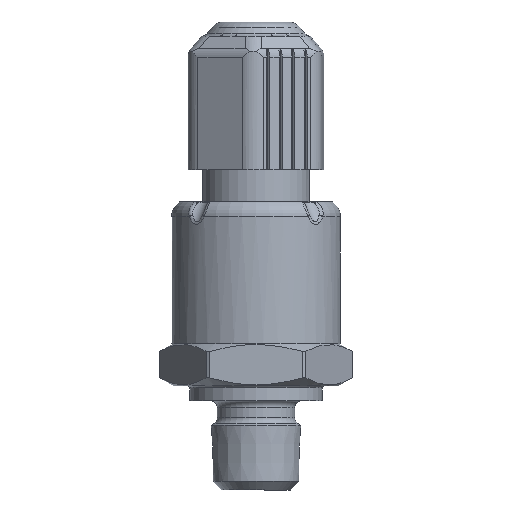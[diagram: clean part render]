
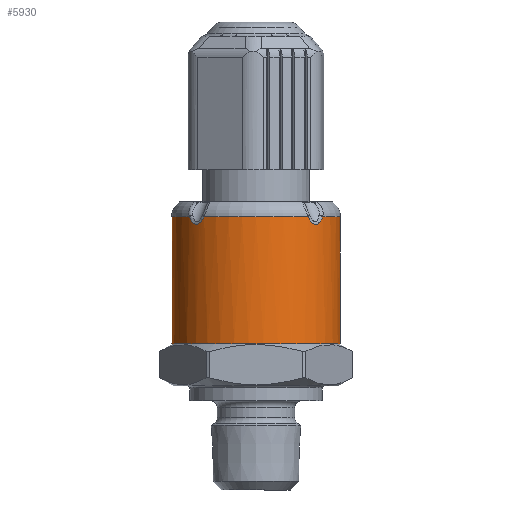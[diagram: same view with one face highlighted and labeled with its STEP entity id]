
A CAD part, front view. The second image highlights one B-rep face of the part: STEP entity #5930.
In plain terms, the highlighted cylindrical face has radius 12 mm (diameter 24 mm), a full revolution.
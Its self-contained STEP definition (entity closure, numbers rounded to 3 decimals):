
#173=B_SPLINE_CURVE_WITH_KNOTS('',3,(#11430,#11431,#11432,#11433,#11434,
#11435,#11436,#11437,#11438,#11439),.UNSPECIFIED.,.F.,.F.,(4,1,1,1,1,1,
1,4),(0.,0.053,0.106,0.159,0.213,
0.266,0.319,0.372),.UNSPECIFIED.);
#178=B_SPLINE_CURVE_WITH_KNOTS('',3,(#11541,#11542,#11543,#11544,#11545,
#11546,#11547,#11548,#11549,#11550,#11551,#11552,#11553,#11554,#11555,#11556,
#11557,#11558,#11559,#11560,#11561,#11562,#11563,#11564,#11565,#11566,#11567,
#11568),.UNSPECIFIED.,.F.,.F.,(4,3,3,3,3,3,3,3,3,4),(0.,0.029,
0.053,0.08,0.106,0.133,
0.157,0.159,0.177,0.186),
 .UNSPECIFIED.);
#179=B_SPLINE_CURVE_WITH_KNOTS('',3,(#11571,#11572,#11573,#11574,#11575,
#11576,#11577,#11578,#11579,#11580),.UNSPECIFIED.,.F.,.F.,(4,1,1,1,1,1,
1,4),(0.,0.053,0.106,0.159,0.213,
0.266,0.319,0.372),.UNSPECIFIED.);
#180=B_SPLINE_CURVE_WITH_KNOTS('',3,(#11581,#11582,#11583,#11584,#11585,
#11586,#11587,#11588,#11589,#11590),.UNSPECIFIED.,.F.,.F.,(4,1,1,1,1,1,
1,4),(0.,0.053,0.106,0.159,
0.213,0.266,0.319,0.372),
 .UNSPECIFIED.);
#181=B_SPLINE_CURVE_WITH_KNOTS('',3,(#11591,#11592,#11593,#11594,#11595,
#11596,#11597),.UNSPECIFIED.,.F.,.F.,(4,1,1,1,4),(0.186,0.213,
0.266,0.292,0.372),.UNSPECIFIED.);
#368=CYLINDRICAL_SURFACE('',#6553,12.);
#702=FACE_OUTER_BOUND('',#1045,.T.);
#1045=EDGE_LOOP('',(#5387,#5388,#5389,#5390,#5391,#5392,#5393,#5394,#5395,
#5396,#5397,#5398));
#1263=CIRCLE('',#6540,12.);
#1268=CIRCLE('',#6547,12.);
#1273=CIRCLE('',#6554,12.);
#1274=CIRCLE('',#6555,12.);
#1275=CIRCLE('',#6556,12.);
#1751=LINE('',#11599,#2223);
#2223=VECTOR('',#8217,12.);
#2774=VERTEX_POINT('',#10838);
#2777=VERTEX_POINT('',#11007);
#2778=VERTEX_POINT('',#11016);
#2783=VERTEX_POINT('',#11241);
#2784=VERTEX_POINT('',#11250);
#2785=VERTEX_POINT('',#11283);
#2788=VERTEX_POINT('',#11360);
#2791=VERTEX_POINT('',#11539);
#2792=VERTEX_POINT('',#11540);
#2793=VERTEX_POINT('',#11598);
#3639=EDGE_CURVE('',#2777,#2778,#1263,.T.);
#3651=EDGE_CURVE('',#2783,#2784,#1268,.T.);
#3658=EDGE_CURVE('',#2785,#2788,#173,.T.);
#3664=EDGE_CURVE('',#2791,#2792,#178,.T.);
#3665=EDGE_CURVE('',#2791,#2788,#1273,.T.);
#3666=EDGE_CURVE('',#2785,#2774,#1274,.T.);
#3667=EDGE_CURVE('',#2777,#2774,#179,.T.);
#3668=EDGE_CURVE('',#2783,#2778,#180,.T.);
#3669=EDGE_CURVE('',#2792,#2784,#181,.T.);
#3670=EDGE_CURVE('',#2792,#2793,#1751,.T.);
#3671=EDGE_CURVE('',#2793,#2793,#1275,.T.);
#5387=ORIENTED_EDGE('',*,*,#3664,.F.);
#5388=ORIENTED_EDGE('',*,*,#3665,.T.);
#5389=ORIENTED_EDGE('',*,*,#3658,.F.);
#5390=ORIENTED_EDGE('',*,*,#3666,.T.);
#5391=ORIENTED_EDGE('',*,*,#3667,.F.);
#5392=ORIENTED_EDGE('',*,*,#3639,.T.);
#5393=ORIENTED_EDGE('',*,*,#3668,.F.);
#5394=ORIENTED_EDGE('',*,*,#3651,.T.);
#5395=ORIENTED_EDGE('',*,*,#3669,.F.);
#5396=ORIENTED_EDGE('',*,*,#3670,.T.);
#5397=ORIENTED_EDGE('',*,*,#3671,.T.);
#5398=ORIENTED_EDGE('',*,*,#3670,.F.);
#5930=ADVANCED_FACE('',(#702),#368,.T.);
#6540=AXIS2_PLACEMENT_3D('',#11023,#8185,#8186);
#6547=AXIS2_PLACEMENT_3D('',#11257,#8199,#8200);
#6553=AXIS2_PLACEMENT_3D('',#11538,#8211,#8212);
#6554=AXIS2_PLACEMENT_3D('',#11569,#8213,#8214);
#6555=AXIS2_PLACEMENT_3D('',#11570,#8215,#8216);
#6556=AXIS2_PLACEMENT_3D('',#11600,#8218,#8219);
#8185=DIRECTION('center_axis',(0.,0.,-1.));
#8186=DIRECTION('ref_axis',(0.707,-0.707,0.));
#8199=DIRECTION('center_axis',(0.,0.,-1.));
#8200=DIRECTION('ref_axis',(0.707,-0.707,0.));
#8211=DIRECTION('center_axis',(0.,0.,1.));
#8212=DIRECTION('ref_axis',(0.707,-0.707,0.));
#8213=DIRECTION('center_axis',(0.,0.,-1.));
#8214=DIRECTION('ref_axis',(0.707,-0.707,0.));
#8215=DIRECTION('center_axis',(0.,0.,-1.));
#8216=DIRECTION('ref_axis',(0.707,-0.707,0.));
#8217=DIRECTION('',(0.,0.,-1.));
#8218=DIRECTION('center_axis',(0.,0.,1.));
#8219=DIRECTION('ref_axis',(0.707,-0.707,0.));
#10838=CARTESIAN_POINT('',(9.481,-7.356,17.005));
#11007=CARTESIAN_POINT('',(7.356,-9.481,17.005));
#11016=CARTESIAN_POINT('',(-7.356,-9.481,17.005));
#11023=CARTESIAN_POINT('Origin',(0.,0.,17.005));
#11241=CARTESIAN_POINT('',(-9.481,-7.356,17.005));
#11250=CARTESIAN_POINT('',(-9.481,7.356,17.005));
#11257=CARTESIAN_POINT('Origin',(0.,0.,17.005));
#11283=CARTESIAN_POINT('',(9.481,7.356,17.005));
#11360=CARTESIAN_POINT('',(7.356,9.481,17.005));
#11430=CARTESIAN_POINT('Ctrl Pts',(9.481,7.356,17.005));
#11431=CARTESIAN_POINT('Ctrl Pts',(9.421,7.433,16.853));
#11432=CARTESIAN_POINT('Ctrl Pts',(9.289,7.6,16.56));
#11433=CARTESIAN_POINT('Ctrl Pts',(9.032,7.905,16.18));
#11434=CARTESIAN_POINT('Ctrl Pts',(8.693,8.278,15.919));
#11435=CARTESIAN_POINT('Ctrl Pts',(8.279,8.692,15.92));
#11436=CARTESIAN_POINT('Ctrl Pts',(7.905,9.032,16.181));
#11437=CARTESIAN_POINT('Ctrl Pts',(7.6,9.288,16.56));
#11438=CARTESIAN_POINT('Ctrl Pts',(7.433,9.421,16.853));
#11439=CARTESIAN_POINT('Ctrl Pts',(7.356,9.481,17.005));
#11538=CARTESIAN_POINT('Origin',(0.,0.,-1.));
#11539=CARTESIAN_POINT('',(-7.356,9.481,17.005));
#11540=CARTESIAN_POINT('',(-8.485,8.485,15.929));
#11541=CARTESIAN_POINT('Ctrl Pts',(-7.356,9.481,17.005));
#11542=CARTESIAN_POINT('Ctrl Pts',(-7.398,9.449,16.923));
#11543=CARTESIAN_POINT('Ctrl Pts',(-7.441,9.415,16.843));
#11544=CARTESIAN_POINT('Ctrl Pts',(-7.487,9.378,16.765));
#11545=CARTESIAN_POINT('Ctrl Pts',(-7.526,9.347,16.698));
#11546=CARTESIAN_POINT('Ctrl Pts',(-7.566,9.314,16.633));
#11547=CARTESIAN_POINT('Ctrl Pts',(-7.609,9.279,16.57));
#11548=CARTESIAN_POINT('Ctrl Pts',(-7.655,9.241,16.502));
#11549=CARTESIAN_POINT('Ctrl Pts',(-7.704,9.201,16.436));
#11550=CARTESIAN_POINT('Ctrl Pts',(-7.755,9.158,16.373));
#11551=CARTESIAN_POINT('Ctrl Pts',(-7.806,9.114,16.311));
#11552=CARTESIAN_POINT('Ctrl Pts',(-7.86,9.068,16.253));
#11553=CARTESIAN_POINT('Ctrl Pts',(-7.916,9.019,16.2));
#11554=CARTESIAN_POINT('Ctrl Pts',(-7.973,8.969,16.146));
#11555=CARTESIAN_POINT('Ctrl Pts',(-8.032,8.916,16.098));
#11556=CARTESIAN_POINT('Ctrl Pts',(-8.094,8.86,16.058));
#11557=CARTESIAN_POINT('Ctrl Pts',(-8.149,8.809,16.021));
#11558=CARTESIAN_POINT('Ctrl Pts',(-8.207,8.756,15.991));
#11559=CARTESIAN_POINT('Ctrl Pts',(-8.265,8.7,15.969));
#11560=CARTESIAN_POINT('Ctrl Pts',(-8.272,8.693,15.966));
#11561=CARTESIAN_POINT('Ctrl Pts',(-8.279,8.687,15.964));
#11562=CARTESIAN_POINT('Ctrl Pts',(-8.285,8.681,15.962));
#11563=CARTESIAN_POINT('Ctrl Pts',(-8.328,8.64,15.947));
#11564=CARTESIAN_POINT('Ctrl Pts',(-8.372,8.597,15.938));
#11565=CARTESIAN_POINT('Ctrl Pts',(-8.415,8.555,15.933));
#11566=CARTESIAN_POINT('Ctrl Pts',(-8.439,8.532,15.93));
#11567=CARTESIAN_POINT('Ctrl Pts',(-8.462,8.509,15.929));
#11568=CARTESIAN_POINT('Ctrl Pts',(-8.485,8.485,15.929));
#11569=CARTESIAN_POINT('Origin',(0.,0.,17.005));
#11570=CARTESIAN_POINT('Origin',(0.,0.,17.005));
#11571=CARTESIAN_POINT('Ctrl Pts',(7.356,-9.481,17.005));
#11572=CARTESIAN_POINT('Ctrl Pts',(7.433,-9.421,16.853));
#11573=CARTESIAN_POINT('Ctrl Pts',(7.6,-9.289,16.56));
#11574=CARTESIAN_POINT('Ctrl Pts',(7.905,-9.032,16.18));
#11575=CARTESIAN_POINT('Ctrl Pts',(8.278,-8.693,15.919));
#11576=CARTESIAN_POINT('Ctrl Pts',(8.692,-8.279,15.92));
#11577=CARTESIAN_POINT('Ctrl Pts',(9.032,-7.905,16.181));
#11578=CARTESIAN_POINT('Ctrl Pts',(9.288,-7.6,16.56));
#11579=CARTESIAN_POINT('Ctrl Pts',(9.421,-7.433,16.853));
#11580=CARTESIAN_POINT('Ctrl Pts',(9.481,-7.356,17.005));
#11581=CARTESIAN_POINT('Ctrl Pts',(-9.481,-7.356,17.005));
#11582=CARTESIAN_POINT('Ctrl Pts',(-9.421,-7.433,
16.853));
#11583=CARTESIAN_POINT('Ctrl Pts',(-9.289,-7.6,
16.56));
#11584=CARTESIAN_POINT('Ctrl Pts',(-9.032,-7.905,16.18));
#11585=CARTESIAN_POINT('Ctrl Pts',(-8.693,-8.278,
15.919));
#11586=CARTESIAN_POINT('Ctrl Pts',(-8.279,-8.692,15.92));
#11587=CARTESIAN_POINT('Ctrl Pts',(-7.905,-9.032,
16.181));
#11588=CARTESIAN_POINT('Ctrl Pts',(-7.6,-9.288,16.56));
#11589=CARTESIAN_POINT('Ctrl Pts',(-7.433,-9.421,
16.853));
#11590=CARTESIAN_POINT('Ctrl Pts',(-7.356,-9.481,
17.005));
#11591=CARTESIAN_POINT('Ctrl Pts',(-8.485,8.485,15.929));
#11592=CARTESIAN_POINT('Ctrl Pts',(-8.552,8.419,15.929));
#11593=CARTESIAN_POINT('Ctrl Pts',(-8.749,8.217,15.963));
#11594=CARTESIAN_POINT('Ctrl Pts',(-8.976,7.967,16.137));
#11595=CARTESIAN_POINT('Ctrl Pts',(-9.252,7.646,16.487));
#11596=CARTESIAN_POINT('Ctrl Pts',(-9.392,7.471,16.777));
#11597=CARTESIAN_POINT('Ctrl Pts',(-9.481,7.356,17.005));
#11598=CARTESIAN_POINT('',(-8.485,8.485,-1.));
#11599=CARTESIAN_POINT('',(-8.485,8.485,-1.));
#11600=CARTESIAN_POINT('Origin',(0.,0.,-1.));
